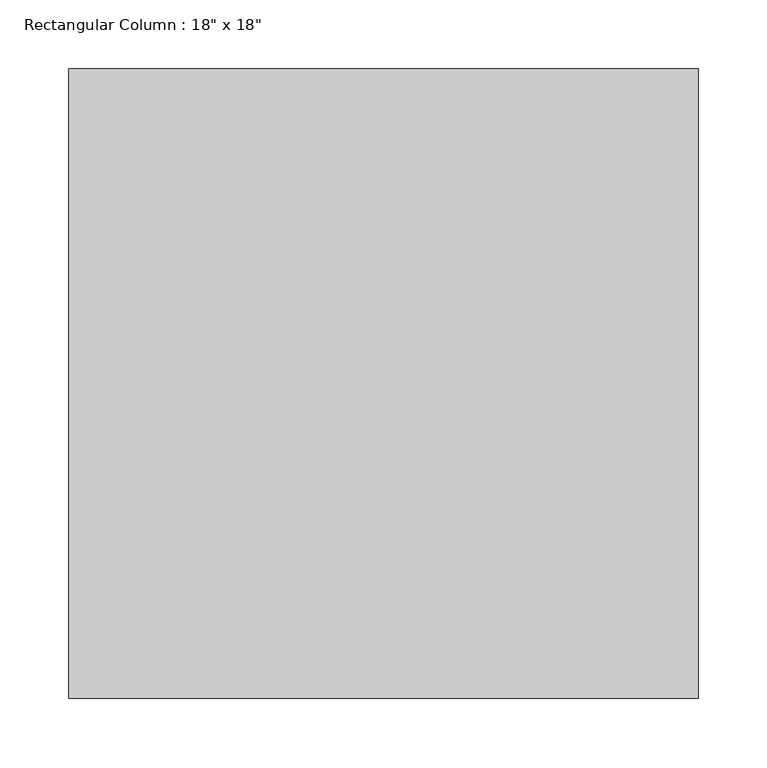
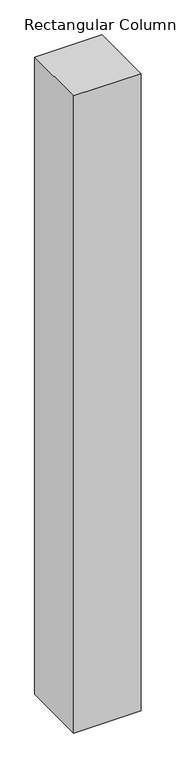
"""IFC4 building model written with IfcOpenShell, lengths in millimetres: column geometry."""

from ifc_helpers import new_model, si_unit, origin, origin_with_axes, place, context, project, spatial, polyline, outline, extrude, source, transform, mapped, element, save


def column_01934044(model_context):
    return source(origin(), model_context, "Body", "SweptSolid", [
        extrude(outline(polyline([(228.6, 228.6), (228.6, -228.6), (-228.6, -228.6), (-228.6, 228.6), (228.6, 228.6)])), origin_with_axes(), (0.0, 0.0, 1.0), 4572.0),
    ])


if __name__ == "__main__":
    model = new_model("IFC4")
    model_context = context("Model", 3, world=origin())
    ifc_project = project(units=[si_unit("LENGTHUNIT", "METRE", prefix="MILLI")], contexts=[model_context])
    site = spatial("IfcSite", under=ifc_project)
    building = spatial("IfcBuilding", under=site)
    placement = place(None, origin())
    column_shape = column_01934044(model_context)
    element("IfcColumn", 1, ObjectType="Rectangular Column : 18\" x 18\"", at=placement, inside=building, context=model_context, shape_type="MappedRepresentation", body=[
        mapped(column_shape, transform((0.0, 0.0, 0.0), x_axis=(1.0, 0.0, 0.0), y_axis=(0.0, 1.0, 0.0), z_axis=(0.0, 0.0, 1.0))),
    ])
    save(model, "model.ifc")
